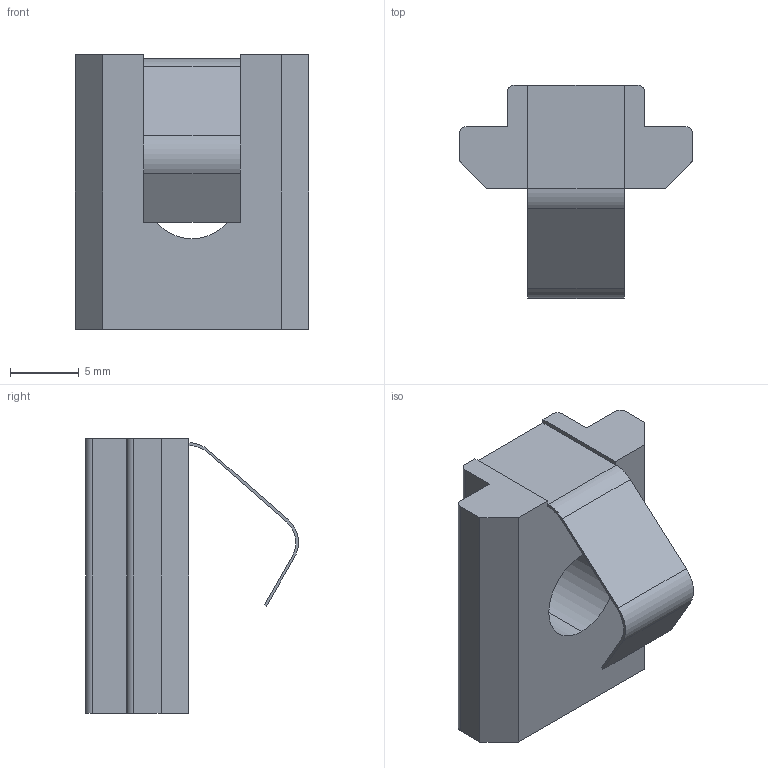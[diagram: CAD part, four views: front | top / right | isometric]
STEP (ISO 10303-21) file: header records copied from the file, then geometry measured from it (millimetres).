
FILE_DESCRIPTION (( 'STEP AP203' ), '1' );
FILE_NAME ('084.302.102.STEP', '2021-03-22T08:56:44', ( 'Localadmin' ), ( 'Microsoft' ), 'SwSTEP 2.0', 'SolidWorks 2018', '' );
FILE_SCHEMA (( 'CONFIG_CONTROL_DESIGN' ));
Length unit declared in the file: millimetre
Products named in the file (1): 084.302.102
Bounding box: 17 x 15.51 x 20 mm (x, y, z)
Volume: 1779.9 mm3; surface area: 1441.2 mm2
Topology: 1 solids, 1 shells, 34 faces, 94 edges, 62 vertices
Faces by surface type: plane 24, cylinder 10
Entity records: 1163 total; most frequent: CARTESIAN_POINT 191, ORIENTED_EDGE 188, DIRECTION 184, EDGE_CURVE 94, VECTOR 74, LINE 74, VERTEX_POINT 62, AXIS2_PLACEMENT_3D 55
